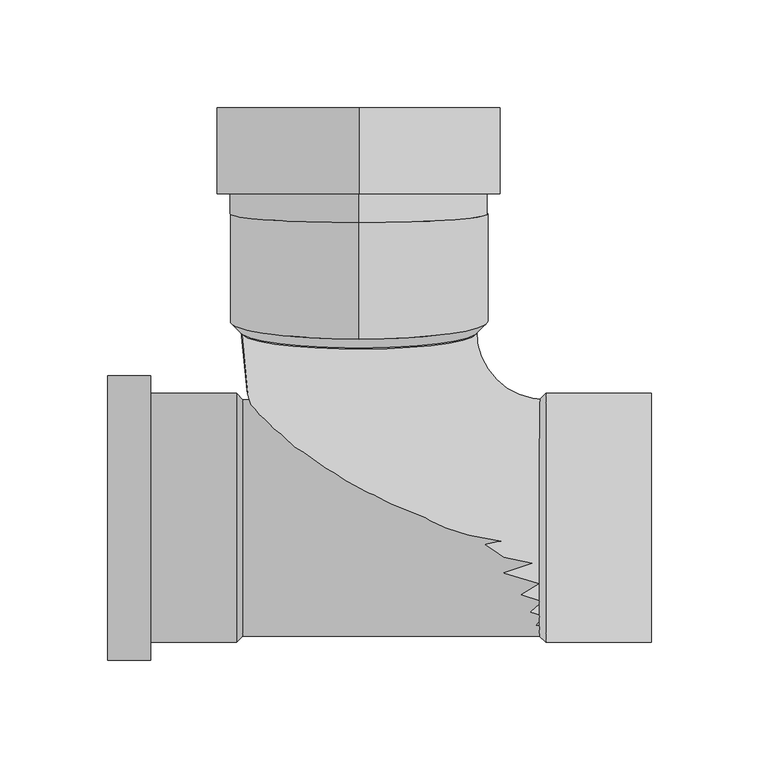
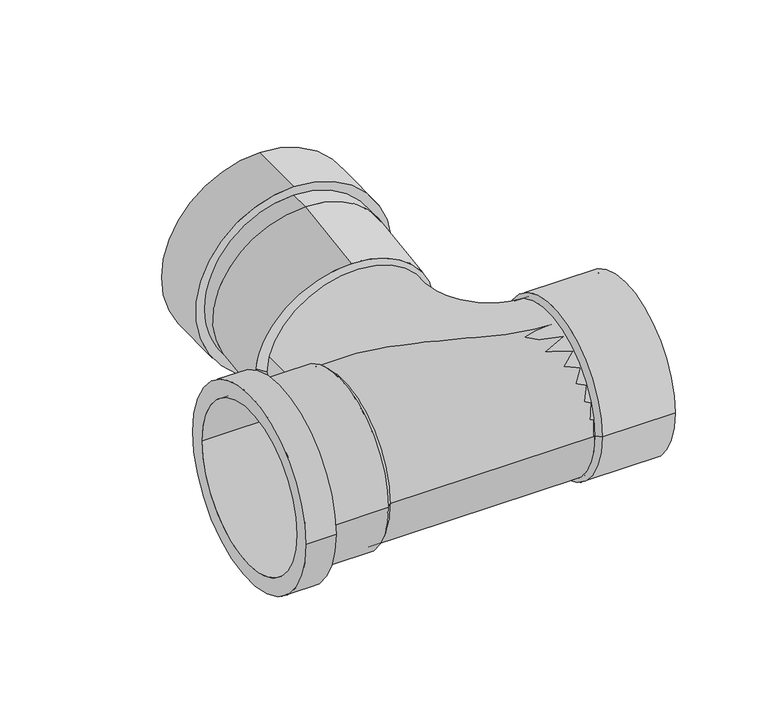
"""IFC4 building model written with IfcOpenShell, lengths in millimetres: pipe fitting geometry, Wavin_PipeAccessory_OsmaAccessoriesWcBranch : 8º."""

from ifc_helpers import new_model, si_unit, point, frame, origin, origin_2d, place, context, project, spatial, polyline, circle_curve, ellipse_curve, trimmed, segment, composite_curve, outline, extrude, source, transform, mapped, element, save
from ifc_brep_helpers import plane_surface, cylinder_surface, revolved_surface, advanced_brep


def pipe_fitting_509c5175(model_context):
    return source(origin(), model_context, "Body", "SolidModel", [
        advanced_brep(
        [(-54.1, -55.0, 0.0), (-54.1, 55.0, 0.0), (-117.0, 55.0, 0.0), (-117.0, -55.0, 0.0), (-97.0, -57.9, 0.0), (-97.0, 57.9, 0.0), (-57.0, 57.9, 0.0), (-57.0, -57.9, 0.0), (-117.0, -66.25, 0.0), (-117.0, 66.25, 0.0), (-97.0, 66.25, 0.0), (-97.0, -66.25, 0.0)],
        [
            (0, 1, circle_curve(frame((-54.1, 0.0, 0.0), z_axis=(1.0, 0.0, 0.0), x_axis=(0.0, 1.0000000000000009, 0.0)), 55.0)),
            (1, 2),
            (2, 3, circle_curve(frame((-117.0, 0.0, 0.0), z_axis=(-1.0, 0.0, 0.0), x_axis=(0.0, 1.0000000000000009, 0.0)), 55.0)),
            (3, 0),
            (4, 5, circle_curve(frame((-97.0, 0.0, 0.0), z_axis=(1.0, 0.0, 0.0), x_axis=(0.0, 1.0000000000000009, 0.0)), 57.9)),
            (5, 6),
            (6, 7, circle_curve(frame((-57.0, 0.0, 0.0), z_axis=(-1.0, 0.0, 0.0), x_axis=(0.0, 1.0000000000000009, 0.0)), 57.9)),
            (7, 4),
            (1, 0, circle_curve(frame((-54.1, 0.0, 0.0), z_axis=(1.0, 0.0, 0.0), x_axis=(0.0, -1.0000000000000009, 0.0)), 55.0)),
            (3, 2, circle_curve(frame((-117.0, 0.0, 0.0), z_axis=(-1.0, 0.0, 0.0), x_axis=(0.0, -1.0000000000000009, 0.0)), 55.0)),
            (5, 4, circle_curve(frame((-97.0, 0.0, 0.0), z_axis=(1.0, 0.0, 0.0), x_axis=(0.0, -1.0000000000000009, 0.0)), 57.9)),
            (7, 6, circle_curve(frame((-57.0, 0.0, 0.0), z_axis=(-1.0, 0.0, 0.0), x_axis=(0.0, -1.0000000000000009, 0.0)), 57.9)),
            (8, 9, circle_curve(frame((-117.0, 0.0, 0.0), z_axis=(1.0, 0.0, 0.0), x_axis=(0.0, 1.0000000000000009, 0.0)), 66.25)),
            (9, 10),
            (10, 11, circle_curve(frame((-97.0, 0.0, 0.0), z_axis=(-1.0, 0.0, 0.0), x_axis=(0.0, 1.0000000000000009, 0.0)), 66.25)),
            (11, 8),
            (10, 11, circle_curve(frame((-97.0, 0.0, 0.0), z_axis=(1.0, 0.0, 0.0), x_axis=(0.0, -1.0000000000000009, 0.0)), 66.25)),
            (9, 8, circle_curve(frame((-117.0, 0.0, 0.0), z_axis=(1.0, 0.0, 0.0), x_axis=(0.0, -1.0000000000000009, 0.0)), 66.25)),
            (6, 1),
            (0, 7),
        ],
        [
            revolved_surface(polyline([(-117.00000000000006, 55.00000000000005, 0.0), (-54.1, 55.00000000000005, 0.0)]), (-57.0, 0.0, 0.0), (-1.0000000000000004, 0.0, 0.0)),
            cylinder_surface(frame((-57.0, 0.0, 0.0), z_axis=(-1.0000000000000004, 0.0, 0.0), x_axis=(0.0, 1.0000000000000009, 0.0)), 57.9),
            revolved_surface(polyline([(-117.00000000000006, -55.00000000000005, 0.0), (-54.1, -55.00000000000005, 0.0)]), (-57.0, 0.0, 0.0), (-1.0000000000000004, 0.0, 0.0)),
            cylinder_surface(frame((-57.0, 0.0, 0.0), z_axis=(-1.0000000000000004, 0.0, 0.0), x_axis=(0.0, -1.0000000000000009, 0.0)), 57.9),
            cylinder_surface(frame((-57.0, 0.0, 0.0), z_axis=(-1.0000000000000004, 0.0, 0.0), x_axis=(0.0, 1.0000000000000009, 0.0)), 66.25),
            plane_surface(frame((-97.0, 0.0, 0.0), z_axis=(1.0, 0.0, 0.0), x_axis=(0.0, -1.0, 0.0))),
            cylinder_surface(frame((-57.0, 0.0, 0.0), z_axis=(-1.0000000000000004, 0.0, 0.0), x_axis=(0.0, -1.0000000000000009, 0.0)), 66.25),
            plane_surface(frame((-117.0, 0.0, 0.0), z_axis=(-1.0, 0.0, 0.0), x_axis=(0.0, -1.0, 0.0))),
            revolved_surface(polyline([(-54.1, 55.0, 0.0), (-57.0, 57.9, 0.0)]), (-57.0, 0.0, 0.0), (-1.0000000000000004, 0.0, 0.0)),
            revolved_surface(polyline([(-54.1, -55.0, 0.0), (-57.0, -57.9, 0.0)]), (-57.0, 0.0, 0.0), (-1.0000000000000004, 0.0, 0.0)),
        ],
        [
            (0, [[1, 2, 3, 4]]),
            (1, [[5, 6, 7, 8]]),
            (2, [[9, -4, 10, -2]]),
            (3, [[11, -8, 12, -6]]),
            (4, [[13, 14, 15, 16]]),
            (5, [[17, -15], [-11, -5]]),
            (6, [[18, -16, -17, -14]]),
            (7, [[-18, -13], [-10, -3]]),
            (8, [[-7, 19, -1, 20]]),
            (9, [[-12, -20, -9, -19]]),
        ],
    ),
        advanced_brep(
        [(87.0, 57.9, 0.0), (87.0, -57.9, 0.0), (84.1, -55.0, 0.0), (84.1, 55.0, 0.0), (136.0, 57.9, 0.0), (136.0, -57.9, 0.0), (136.0, -55.0, 0.0), (136.0, 55.0, 0.0)],
        [
            (0, 1, circle_curve(frame((87.0, 0.0, 0.0), z_axis=(-1.0, 0.0, 0.0), x_axis=(0.0, -1.0, 0.0)), 57.9)),
            (1, 2),
            (2, 3, circle_curve(frame((84.1, 0.0, 0.0), z_axis=(1.0, 0.0, 0.0), x_axis=(0.0, -1.0, 0.0)), 55.0)),
            (3, 0),
            (4, 5, circle_curve(frame((136.0, 0.0, 0.0), z_axis=(-1.0, 0.0, 0.0), x_axis=(0.0, -1.0, 0.0)), 57.9)),
            (5, 1),
            (0, 4),
            (2, 6),
            (6, 7, circle_curve(frame((136.0, 0.0, 0.0), z_axis=(1.0, 0.0, 0.0), x_axis=(0.0, -1.0, 0.0)), 55.0)),
            (7, 3),
            (1, 0, circle_curve(frame((87.0, 0.0, 0.0), z_axis=(-1.0, 0.0, 0.0), x_axis=(0.0, 1.0, 0.0)), 57.9)),
            (3, 2, circle_curve(frame((84.1, 0.0, 0.0), z_axis=(1.0, 0.0, 0.0), x_axis=(0.0, 1.0, 0.0)), 55.0)),
            (5, 4, circle_curve(frame((136.0, 0.0, 0.0), z_axis=(-1.0, 0.0, 0.0), x_axis=(0.0, 1.0, 0.0)), 57.9)),
            (6, 7, circle_curve(frame((136.0, 0.0, 0.0), z_axis=(-1.0, 0.0, 0.0), x_axis=(0.0, 1.0, 0.0)), 55.0)),
        ],
        [
            revolved_surface(polyline([(84.1, -55.0, 0.0), (87.0, -57.9, 0.0)]), (87.0, 0.0, 0.0), (1.0, 0.0, 0.0)),
            cylinder_surface(frame((87.0, 0.0, 0.0), z_axis=(1.0, 0.0, 0.0), x_axis=(0.0, -1.0, 0.0)), 57.9),
            revolved_surface(polyline([(136.0, -55.0, 0.0), (84.1, -55.0, 0.0)]), (87.0, 0.0, 0.0), (1.0, 0.0, 0.0)),
            revolved_surface(polyline([(84.1, 55.0, 0.0), (87.0, 57.9, 0.0)]), (87.0, 0.0, 0.0), (1.0, 0.0, 0.0)),
            cylinder_surface(frame((87.0, 0.0, 0.0), z_axis=(1.0, 0.0, 0.0), x_axis=(0.0, 1.0, 0.0)), 57.9),
            plane_surface(frame((136.0, 0.0, 0.0), z_axis=(1.0, 0.0, 0.0), x_axis=(0.0, 1.0, 0.0))),
            revolved_surface(polyline([(136.0, 55.0, 0.0), (84.1, 55.0, 0.0)]), (87.0, 0.0, 0.0), (1.0, 0.0, 0.0)),
        ],
        [
            (0, [[1, 2, 3, 4]]),
            (1, [[5, 6, -1, 7]]),
            (2, [[-3, 8, 9, 10]]),
            (3, [[11, -4, 12, -2]]),
            (4, [[13, -7, -11, -6]]),
            (5, [[-13, -5], [14, -9]]),
            (6, [[-12, -10, -14, -8]]),
        ],
    ),
        advanced_brep(
        [(87.0, -55.0, 0.0), (87.0, 55.0, 0.0), (54.4647438, 87.2186253, 4.5280325), (-54.4647438, 85.0880186, 19.6880871)],
        [
            (0, 1, circle_curve(frame((87.0, 0.0, 0.0), z_axis=(1.0000000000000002, 0.0, 0.0), x_axis=(0.0, 1.0000000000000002, 0.0)), 55.0)),
            (1, 0, circle_curve(frame((87.0, 0.0, 0.0), z_axis=(1.0000000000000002, 0.0, 0.0), x_axis=(0.0, 1.0000000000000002, 0.0)), 55.0)),
            (2, 1, circle_curve(frame((87.0, 87.2186253, 4.5280325), z_axis=(0.0, -0.13917310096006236, 0.9902680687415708), x_axis=(0.0, -0.9902680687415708, -0.13917310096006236)), 32.5352562)),
            (0, 3, circle_curve(frame((87.0, 85.0880186, 19.6880871), z_axis=(0.0, 0.13917310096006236, -0.9902680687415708), x_axis=(0.0, -0.9902680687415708, -0.13917310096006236)), 141.4647438)),
            (3, 2, circle_curve(frame((0.0, 86.153322, 12.1080598), z_axis=(0.0, -0.990268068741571, -0.13917310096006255), x_axis=(0.9902680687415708, 0.019369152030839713, -0.1378186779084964)), 55.0)),
            (2, 3, circle_curve(frame((0.0, 86.153322, 12.1080598), z_axis=(0.0, -0.990268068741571, -0.13917310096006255), x_axis=(0.9902680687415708, 0.019369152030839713, -0.1378186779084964)), 55.0)),
        ],
        [
            plane_surface(frame((87.0, 93.111977, -37.4053437), z_axis=(1.0000000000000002, 0.0, 0.0), x_axis=(0.0, -0.9902680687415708, -0.13917310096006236))),
            revolved_surface(trimmed(ellipse_curve(frame((87.0, 0.0, 0.0), z_axis=(1.0000000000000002, 0.0, 0.0), x_axis=(0.0, 1.0000000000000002, 0.0)), 55.0, 55.0), [point((87.0, -55.0, 0.0))], [point((87.0, 55.0, 0.0))], True, "CARTESIAN"), (87.0, 93.111977, -37.4053437), (0.0, 0.13917310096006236, -0.9902680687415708)),
            revolved_surface(trimmed(ellipse_curve(frame((87.0, 0.0, 0.0), z_axis=(1.0000000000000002, 0.0, 0.0), x_axis=(0.0, 1.0000000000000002, 0.0)), 55.0, 55.0), [point((87.0, 55.0, 0.0))], [point((87.0, -55.0, 0.0))], True, "CARTESIAN"), (87.0, 93.111977, -37.4053437), (0.0, 0.13917310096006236, -0.9902680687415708)),
            plane_surface(frame((87.0, 93.111977, -37.4053437), z_axis=(0.0, 0.9902680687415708, 0.13917310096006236), x_axis=(-1.0, 0.0, 0.0))),
        ],
        [
            (0, [[1, 2]]),
            (1, [[3, -1, 4, 5]]),
            (2, [[-4, -2, -3, 6]]),
            (3, [[-6, -5]]),
        ],
    ),
        advanced_brep(
        [(0.0, 190.8516321, -50.0), (0.0, 190.8516321, 82.0), (0.0, 190.8516321, 72.5), (0.0, 190.8516321, -40.5), (0.0, 137.3442369, 76.0), (0.0, 145.7354543, -44.0), (0.0, 150.8516321, -44.0), (0.0, 150.8516321, 76.0), (0.0, 83.2060986, 68.3913809), (60.0, 91.5564846, 8.9752967), (0.0, 99.9068707, -50.4407874), (-60.0, 91.5564846, 8.9752967), (0.0, 150.8516321, -50.0), (0.0, 150.8516321, 82.0), (0.0, 120.8516321, 72.5), (0.0, 120.8516321, -40.5), (55.0, 86.6051443, 8.2794312), (-55.0, 86.6051443, 8.2794312)],
        [
            (0, 1, circle_curve(frame((0.0, 190.8516321, 16.0), z_axis=(0.0, 1.0, 0.0), x_axis=(0.0, 0.0, 1.0)), 66.0)),
            (1, 0, circle_curve(frame((0.0, 190.8516321, 16.0), z_axis=(0.0, 1.0, 0.0), x_axis=(0.0, 0.0, 1.0)), 66.0)),
            (2, 3, circle_curve(frame((0.0, 190.8516321, 16.0), z_axis=(0.0, -1.0, 0.0), x_axis=(0.0, 0.0, -1.0)), 56.5)),
            (3, 2, circle_curve(frame((0.0, 190.8516321, 16.0), z_axis=(0.0, -1.0, 0.0), x_axis=(0.0, 0.0, -1.0)), 56.5)),
            (4, 5, ellipse_curve(frame((0.0, 141.5398456, 16.0), z_axis=(0.0, 0.9975640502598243, 0.06975647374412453), x_axis=(0.0, 0.06975647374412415, -0.9975640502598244)), 60.1465139, 60.0)),
            (5, 6),
            (6, 7, circle_curve(frame((0.0, 150.8516321, 16.0), z_axis=(0.0, -1.0, 0.0), x_axis=(0.0, 0.0, -1.0)), 60.0)),
            (7, 4),
            (5, 4, ellipse_curve(frame((0.0, 141.5398456, 16.0), z_axis=(0.0, 0.9975640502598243, 0.06975647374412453), x_axis=(0.0, 0.06975647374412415, -0.9975640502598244)), 60.1465139, 60.0)),
            (7, 6, circle_curve(frame((0.0, 150.8516321, 16.0), z_axis=(0.0, -1.0, 0.0), x_axis=(0.0, 0.0, -1.0)), 60.0)),
            (4, 8),
            (8, 9, circle_curve(frame((0.0, 91.5564846, 8.9752967), z_axis=(0.0, 0.9902680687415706, 0.1391731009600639), x_axis=(0.0, 0.1391731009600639, -0.9902680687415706)), 60.0)),
            (9, 10, circle_curve(frame((0.0, 91.5564846, 8.9752967), z_axis=(0.0, 0.9902680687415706, 0.1391731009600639), x_axis=(0.0, 0.1391731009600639, -0.9902680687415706)), 60.0)),
            (10, 5),
            (10, 11, circle_curve(frame((0.0, 91.5564846, 8.9752967), z_axis=(0.0, 0.9902680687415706, 0.1391731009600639), x_axis=(0.0, 0.1391731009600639, -0.9902680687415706)), 60.0)),
            (11, 8, circle_curve(frame((0.0, 91.5564846, 8.9752967), z_axis=(0.0, 0.9902680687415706, 0.1391731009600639), x_axis=(0.0, 0.1391731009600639, -0.9902680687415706)), 60.0)),
            (12, 13, circle_curve(frame((0.0, 150.8516321, 16.0), z_axis=(0.0, -1.0, 0.0), x_axis=(0.0, 0.0, 1.0)), 66.0)),
            (13, 12, circle_curve(frame((0.0, 150.8516321, 16.0), z_axis=(0.0, -1.0, 0.0), x_axis=(0.0, 0.0, 1.0)), 66.0)),
            (13, 1),
            (0, 12),
            (14, 15, circle_curve(frame((0.0, 120.8516321, 16.0), z_axis=(0.0, 1.0, 0.0), x_axis=(0.0, 0.0, -1.0)), 56.5)),
            (15, 14, circle_curve(frame((0.0, 120.8516321, 16.0), z_axis=(0.0, 1.0, 0.0), x_axis=(0.0, 0.0, -1.0)), 56.5)),
            (15, 3),
            (2, 14),
            (9, 16),
            (16, 17, circle_curve(frame((0.0, 86.6051443, 8.2794312), z_axis=(0.0, 0.9902680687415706, 0.13917310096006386), x_axis=(-1.0, 0.0, 0.0)), 55.0)),
            (17, 11),
            (17, 16, circle_curve(frame((0.0, 86.6051443, 8.2794312), z_axis=(0.0, 0.9902680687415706, 0.13917310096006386), x_axis=(1.0, 0.0, 0.0)), 55.0)),
        ],
        [
            plane_surface(frame((0.0, 190.8516321, 16.0), z_axis=(0.0, 1.0, 0.0), x_axis=(1.0, 0.0, 0.0))),
            cylinder_surface(frame((0.0, 190.8516321, 16.0), z_axis=(0.0, 1.0, 0.0), x_axis=(0.0, 0.0, -1.0)), 60.0),
            cylinder_surface(frame((0.0, 141.5398456, 16.0), z_axis=(0.0, 0.9902680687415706, 0.1391731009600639), x_axis=(0.0, 0.1391731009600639, -0.9902680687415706)), 60.0),
            plane_surface(frame((0.0, 150.8516321, 82.0), z_axis=(0.0, -1.0, 0.0), x_axis=(-1.0, 0.0, 0.0))),
            cylinder_surface(frame((0.0, 150.8516321, 16.0), z_axis=(0.0, 1.0, 0.0), x_axis=(0.0, 0.0, 1.0)), 66.0),
            plane_surface(frame((0.0, 120.8516321, -40.5), z_axis=(0.0, 1.0, 0.0), x_axis=(1.0, 0.0, 0.0))),
            revolved_surface(polyline([(0.0, 120.8516321, -40.5), (0.0, 190.8516321, -40.5)]), (0.0, 190.8516321, 16.0), (0.0, -1.0, 0.0)),
            revolved_surface(polyline([(-60.0, 91.5564846, 8.9752967), (-55.0, 86.6051443, 8.2794312)]), (0.0, 86.6051443, 8.2794312), (0.0, -0.9902680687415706, -0.13917310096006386)),
            revolved_surface(polyline([(60.0, 91.5564846, 8.9752967), (55.0, 86.6051443, 8.2794312)]), (0.0, 86.6051443, 8.2794312), (0.0, -0.9902680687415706, -0.13917310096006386)),
            plane_surface(frame((0.0, 86.6051443, 8.2794312), z_axis=(0.0, -0.9902680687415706, -0.13917310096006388), x_axis=(1.0, 0.0, 0.0))),
        ],
        [
            (0, [[1, 2], [3, 4]]),
            (1, [[5, 6, 7, 8]]),
            (1, [[9, -8, 10, -6]]),
            (2, [[-5, 11, 12, 13, 14]]),
            (2, [[-9, -14, 15, 16, -11]]),
            (3, [[17, 18], [-7, -10]]),
            (4, [[-18, 19, -1, 20]]),
            (4, [[-17, -20, -2, -19]]),
            (5, [[21, 22]]),
            (6, [[-22, 23, -3, 24]]),
            (6, [[-21, -24, -4, -23]]),
            (7, [[25, 26, 27, -15, -13]]),
            (8, [[-25, -12, -16, -27, 28]]),
            (9, [[-26, -28]]),
        ],
    ),
        extrude(outline(composite_curve([segment(trimmed(circle_curve(origin_2d(), 55.0), [point((-55.0, 0.0))], [point((55.0, 0.0))], False, "CARTESIAN"), True, "CONTINUOUS"), segment(trimmed(circle_curve(origin_2d(), 55.0), [point((55.0, 0.0))], [point((-55.0, 0.0))], False, "CARTESIAN"), True, "CONTINUOUS")], self_intersect=False)), frame((-57.0, 0.0, 0.0), z_axis=(1.0, 0.0, 0.0), x_axis=(0.0, 1.0, 0.0)), (0.0, 0.0, 1.0), 144.0),
    ])


if __name__ == "__main__":
    model = new_model("IFC4")
    model_context = context("Model", 3, world=origin())
    ifc_project = project(units=[si_unit("LENGTHUNIT", "METRE", prefix="MILLI")], contexts=[model_context])
    site = spatial("IfcSite", under=ifc_project)
    building = spatial("IfcBuilding", under=site)
    placement = place(None, origin())
    pipe_fitting_shape = pipe_fitting_509c5175(model_context)
    element("IfcPipeFitting", 1, ObjectType="Wavin_PipeAccessory_OsmaAccessoriesWcBranch : 8º", at=placement, inside=building, context=model_context, shape_type="MappedRepresentation", body=[
        mapped(pipe_fitting_shape, transform((0.0, 0.0, 0.0), x_axis=(1.0, 0.0, 0.0), y_axis=(0.0, 1.0, 0.0), z_axis=(0.0, 0.0, 1.0))),
    ])
    save(model, "model.ifc")
